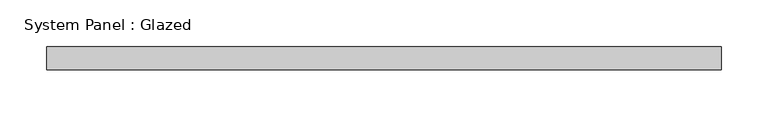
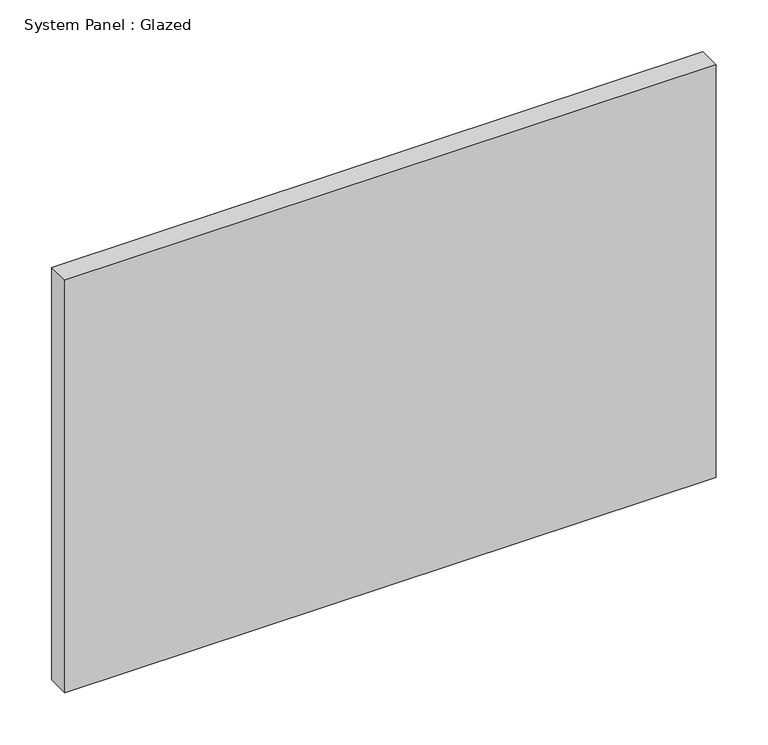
"""IFC4 building model written with IfcOpenShell, lengths in millimetres: plate geometry, System Panel : Glazed."""

from ifc_helpers import new_model, si_unit, origin, origin_with_axes, place, context, project, spatial, polyline, outline, extrude, source, transform, mapped, element, save


def system_panel_glazed_59f69a9d(model_context):
    return source(origin(), model_context, "Body", "SweptSolid", [
        extrude(outline(polyline([(361.875, -12.5), (-361.875, -12.5), (-361.875, 12.5), (361.875, 12.5), (361.875, -12.5)])), origin_with_axes(), (0.0, 0.0, 1.0), 485.0),
    ])


if __name__ == "__main__":
    model = new_model("IFC4")
    model_context = context("Model", 3, world=origin())
    ifc_project = project(units=[si_unit("LENGTHUNIT", "METRE", prefix="MILLI")], contexts=[model_context])
    site = spatial("IfcSite", under=ifc_project)
    building = spatial("IfcBuilding", under=site)
    placement = place(None, origin())
    system_panel_glazed_shape = system_panel_glazed_59f69a9d(model_context)
    element("IfcPlate", 1, ObjectType="System Panel : Glazed", at=placement, inside=building, context=model_context, shape_type="MappedRepresentation", body=[
        mapped(system_panel_glazed_shape, transform((0.0, 0.0, 0.0), x_axis=(1.0, 0.0, 0.0), y_axis=(0.0, 1.0, 0.0), z_axis=(0.0, 0.0, 1.0))),
    ])
    save(model, "model.ifc")
